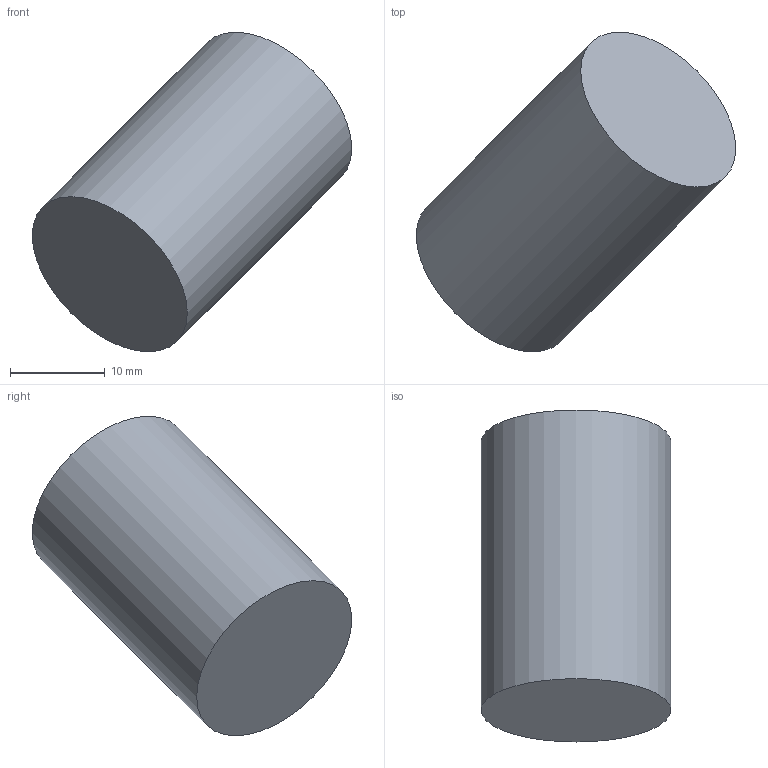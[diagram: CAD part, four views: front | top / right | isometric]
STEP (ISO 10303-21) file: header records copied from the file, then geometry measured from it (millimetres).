
FILE_DESCRIPTION(('step-conformance generated part'),'2;1');
FILE_NAME('cylinder_placed.step','2026-10-12T00:00:00',(''),(''),'step-conformance generate','step-conformance generate','');
FILE_SCHEMA(('AUTOMOTIVE_DESIGN { 1 0 10303 214 1 1 1 1 }'));
Length unit declared in the file: millimetre
Products named in the file (2): cylinder_placed assembly; cylinder_placed
Assembly tree (1 placements, depth 2):
  cylinder_placed assembly
    cylinder_placed
Bounding box: 33.65 x 33.65 x 33.65 mm (x, y, z)
Volume: 9424.8 mm3; surface area: 2513.3 mm2
Topology: 1 solids, 1 shells, 3 faces, 3 edges, 2 vertices
Faces by surface type: plane 2, cylinder 1
Full cylindrical faces by diameter (mm): 20 x1
Entity records: 85 total; most frequent: DIRECTION 16, CARTESIAN_POINT 10, AXIS2_PLACEMENT_3D 8, ORIENTED_EDGE 4, EDGE_LOOP 4, PRODUCT_DEFINITION_SHAPE 3, FACE_OUTER_BOUND 3, ADVANCED_FACE 3
